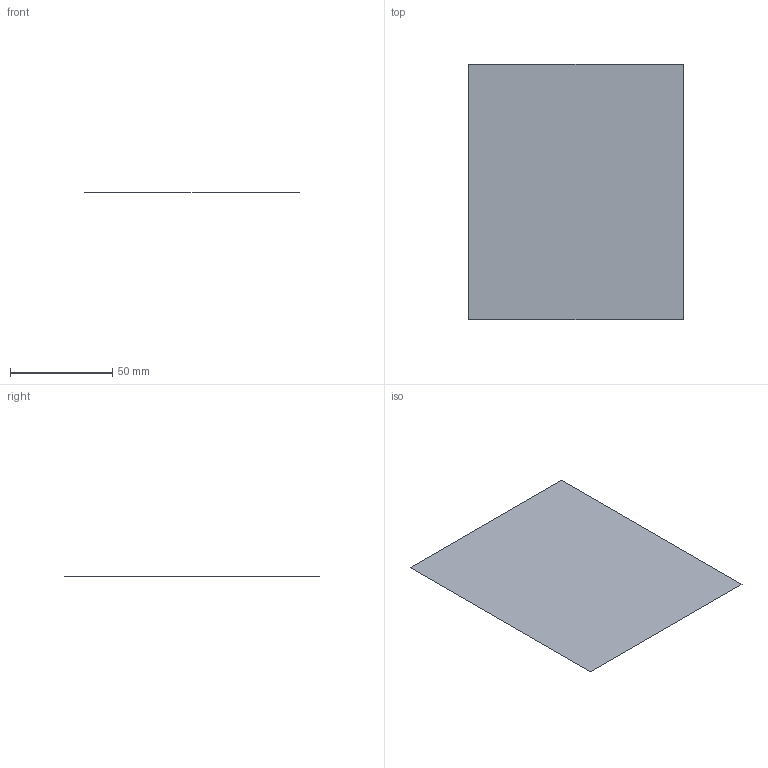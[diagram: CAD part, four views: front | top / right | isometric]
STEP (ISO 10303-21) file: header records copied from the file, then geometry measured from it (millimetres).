
FILE_DESCRIPTION(('CATIA V5 STEP Exchange'),'2;1');
FILE_NAME('C:\_Andres\UNIVERSIDAD\IQS\ASIGNATURAS\DAO\EXF\EXF-15161c\1original\Massaneda_Tuneu_Ej06-calculo_v15.stp','2016-03-04T20:57:43+00:00',('none'),('none'),'CATIA Version 5 Release 20 SP 1 (IN-10)','CATIA V5 STEP AP203','none');
FILE_SCHEMA(('CONFIG_CONTROL_DESIGN'));
Length unit declared in the file: millimetre
Products named in the file (1): Massaneda_Tuneu_Ej06-calculo_v15
Bounding box: 105 x 125 x 0 mm (x, y, z)
Surface area: 13125 mm2 (no closed solid volume)
Topology: 0 solids, 1 shells, 1 faces, 8 edges, 9 vertices
Faces by surface type: plane 1
Entity records: 130 total; most frequent: CARTESIAN_POINT 23, DIRECTION 12, VECTOR 8, LINE 8, COMPOSITE_CURVE_SEGMENT 4, ORIENTED_EDGE 4, CC_DESIGN_PERSON_AND_ORGANIZATION_ASSIGNMENT 4, PERSON_AND_ORGANIZATION_ROLE 4
